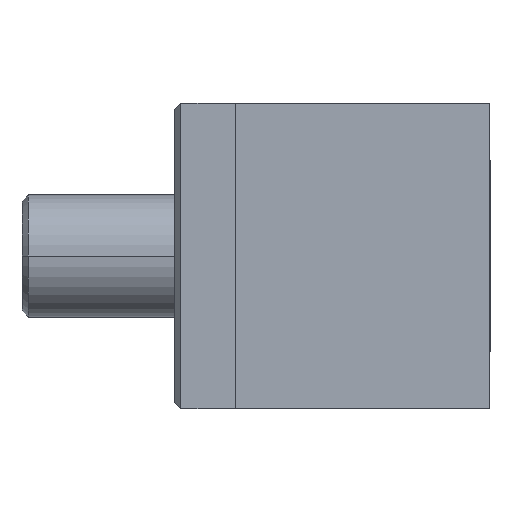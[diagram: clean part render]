
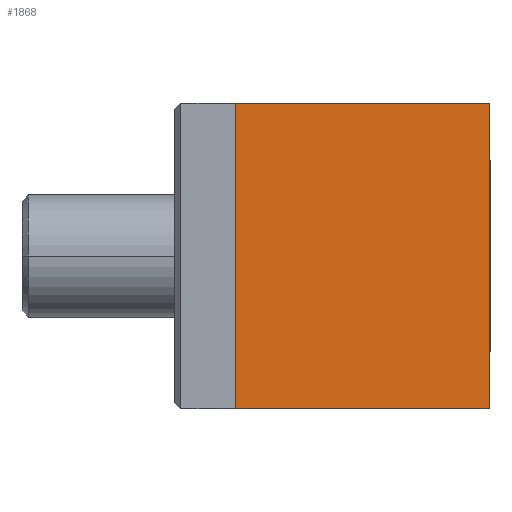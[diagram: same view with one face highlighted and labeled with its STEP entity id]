
A CAD part, left-side view. The second image highlights one B-rep face of the part: STEP entity #1868.
In plain terms, the highlighted planar face has unit normal (-1, 0, 0).
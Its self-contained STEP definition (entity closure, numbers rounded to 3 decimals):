
#107 = CARTESIAN_POINT ( 'NONE',  ( 0., 0., -15. ) ) ;
#141 = EDGE_LOOP ( 'NONE', ( #1960, #580, #1321, #1657 ) ) ;
#151 = EDGE_CURVE ( 'NONE', #668, #822, #1894, .T. ) ;
#166 = VERTEX_POINT ( 'NONE', #331 ) ;
#194 = CARTESIAN_POINT ( 'NONE',  ( 0., 25., 15. ) ) ;
#195 = LINE ( 'NONE', #1930, #1005 ) ;
#236 = CARTESIAN_POINT ( 'NONE',  ( 0., 25., 15. ) ) ;
#297 = VERTEX_POINT ( 'NONE', #194 ) ;
#331 = CARTESIAN_POINT ( 'NONE',  ( 0., 25., -15. ) ) ;
#492 = DIRECTION ( 'NONE',  ( 0., 0., 1. ) ) ;
#580 = ORIENTED_EDGE ( 'NONE', *, *, #1572, .F. ) ;
#666 = VECTOR ( 'NONE', #492, 1000. ) ;
#668 = VERTEX_POINT ( 'NONE', #107 ) ;
#757 = AXIS2_PLACEMENT_3D ( 'NONE', #971, #2110, #1139 ) ;
#768 = LINE ( 'NONE', #236, #887 ) ;
#772 = CARTESIAN_POINT ( 'NONE',  ( 0., 25., -15. ) ) ;
#796 = DIRECTION ( 'NONE',  ( 0., 0., 1. ) ) ;
#816 = PLANE ( 'NONE',  #757 ) ;
#818 = EDGE_CURVE ( 'NONE', #166, #668, #2104, .T. ) ;
#822 = VERTEX_POINT ( 'NONE', #1091 ) ;
#887 = VECTOR ( 'NONE', #1692, 1000. ) ;
#971 = CARTESIAN_POINT ( 'NONE',  ( 0., 25., 15. ) ) ;
#1005 = VECTOR ( 'NONE', #796, 1000. ) ;
#1091 = CARTESIAN_POINT ( 'NONE',  ( 0., 0., 15. ) ) ;
#1139 = DIRECTION ( 'NONE',  ( 0., 0., -1. ) ) ;
#1321 = ORIENTED_EDGE ( 'NONE', *, *, #1452, .F. ) ;
#1326 = FACE_OUTER_BOUND ( 'NONE', #141, .T. ) ;
#1452 = EDGE_CURVE ( 'NONE', #166, #297, #195, .T. ) ;
#1453 = CARTESIAN_POINT ( 'NONE',  ( 0., 0., 15. ) ) ;
#1500 = VECTOR ( 'NONE', #2052, 1000. ) ;
#1572 = EDGE_CURVE ( 'NONE', #297, #822, #768, .T. ) ;
#1657 = ORIENTED_EDGE ( 'NONE', *, *, #818, .T. ) ;
#1692 = DIRECTION ( 'NONE',  ( 0., -1., 0. ) ) ;
#1868 = ADVANCED_FACE ( 'NONE', ( #1326 ), #816, .F. ) ;
#1894 = LINE ( 'NONE', #1453, #666 ) ;
#1930 = CARTESIAN_POINT ( 'NONE',  ( 0., 25., 15. ) ) ;
#1960 = ORIENTED_EDGE ( 'NONE', *, *, #151, .T. ) ;
#2052 = DIRECTION ( 'NONE',  ( 0., -1., 0. ) ) ;
#2104 = LINE ( 'NONE', #772, #1500 ) ;
#2110 = DIRECTION ( 'NONE',  ( 1., 0., 0. ) ) ;
